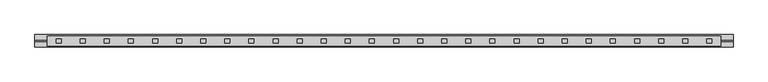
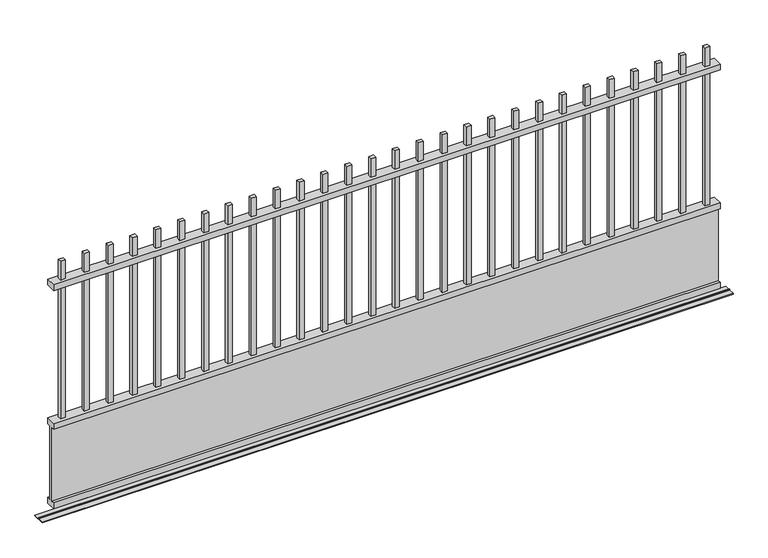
"""IFC4 building model written with IfcOpenShell, lengths in millimetres: geographic element geometry, Portail coulissant - 01 : Portail coulissant - 01."""

from ifc_helpers import new_model, si_unit, frame, origin, place, context, project, spatial, polyline, outline, extrude, faceted_brep, source, transform, mapped, element, save


def geographic_element_4788649b(model_context):
    return source(origin(), model_context, "Body", "SolidModel", [
        faceted_brep([(-1429.1068511, 7.5, 975.0), (-1429.1068511, -7.5, 975.0), (-1429.1068511, -7.5, 405.0), (-1429.1068511, 7.5, 405.0), (-1429.1068511, -7.5, 1080.0), (-1429.1068511, -7.5, 1000.0), (-1429.1068511, 7.5, 1000.0), (-1429.1068511, 7.5, 1080.0), (-1449.1068511, 7.5, 405.0), (-1449.1068511, 7.5, 975.0), (-1449.1068511, 7.5, 1000.0), (-1449.1068511, 7.5, 1080.0), (1215.8931489, 20.0, 405.0), (-1484.1068511, 20.0, 405.0), (-1484.1068511, -20.0, 405.0), (1215.8931489, -20.0, 405.0), (-1449.1068511, -7.5, 405.0), (-1235.7735177, -7.5, 405.0), (-1255.7735177, -7.5, 405.0), (-1255.7735177, 7.5, 405.0), (-1235.7735177, 7.5, 405.0), (-1042.4401844, -7.5, 405.0), (-1062.4401844, -7.5, 405.0), (-1062.4401844, 7.5, 405.0), (-1042.4401844, 7.5, 405.0), (-849.1068511, -7.5, 405.0), (-869.1068511, -7.5, 405.0), (-869.1068511, 7.5, 405.0), (-849.1068511, 7.5, 405.0), (-655.7735177, -7.5, 405.0), (-675.7735177, -7.5, 405.0), (-675.7735177, 7.5, 405.0), (-655.7735177, 7.5, 405.0), (-462.4401844, -7.5, 405.0), (-482.4401844, -7.5, 405.0), (-482.4401844, 7.5, 405.0), (-462.4401844, 7.5, 405.0), (-269.1068511, -7.5, 405.0), (-289.1068511, -7.5, 405.0), (-289.1068511, 7.5, 405.0), (-269.1068511, 7.5, 405.0), (-75.7735177, -7.5, 405.0), (-95.7735177, -7.5, 405.0), (-95.7735177, 7.5, 405.0), (-75.7735177, 7.5, 405.0), (117.5598156, -7.5, 405.0), (97.5598156, -7.5, 405.0), (97.5598156, 7.5, 405.0), (117.5598156, 7.5, 405.0), (310.8931489, -7.5, 405.0), (290.8931489, -7.5, 405.0), (290.8931489, 7.5, 405.0), (310.8931489, 7.5, 405.0), (407.5598156, -7.5, 405.0), (387.5598156, -7.5, 405.0), (387.5598156, 7.5, 405.0), (407.5598156, 7.5, 405.0), (504.2264823, -7.5, 405.0), (484.2264823, -7.5, 405.0), (484.2264823, 7.5, 405.0), (504.2264823, 7.5, 405.0), (600.8931489, -7.5, 405.0), (580.8931489, -7.5, 405.0), (580.8931489, 7.5, 405.0), (600.8931489, 7.5, 405.0), (697.5598156, -7.5, 405.0), (677.5598156, -7.5, 405.0), (677.5598156, 7.5, 405.0), (697.5598156, 7.5, 405.0), (794.2264823, -7.5, 405.0), (774.2264823, -7.5, 405.0), (774.2264823, 7.5, 405.0), (794.2264823, 7.5, 405.0), (890.8931489, -7.5, 405.0), (870.8931489, -7.5, 405.0), (870.8931489, 7.5, 405.0), (890.8931489, 7.5, 405.0), (987.5598156, -7.5, 405.0), (967.5598156, -7.5, 405.0), (967.5598156, 7.5, 405.0), (987.5598156, 7.5, 405.0), (1084.2264823, -7.5, 405.0), (1064.2264823, -7.5, 405.0), (1064.2264823, 7.5, 405.0), (1084.2264823, 7.5, 405.0), (1180.8931489, -7.5, 405.0), (1160.8931489, -7.5, 405.0), (1160.8931489, 7.5, 405.0), (1180.8931489, 7.5, 405.0), (-1332.4401844, -7.5, 405.0), (-1352.4401844, -7.5, 405.0), (-1352.4401844, 7.5, 405.0), (-1332.4401844, 7.5, 405.0), (-1139.1068511, -7.5, 405.0), (-1159.1068511, -7.5, 405.0), (-1159.1068511, 7.5, 405.0), (-1139.1068511, 7.5, 405.0), (-945.7735177, -7.5, 405.0), (-965.7735177, -7.5, 405.0), (-965.7735177, 7.5, 405.0), (-945.7735177, 7.5, 405.0), (-752.4401844, -7.5, 405.0), (-772.4401844, -7.5, 405.0), (-772.4401844, 7.5, 405.0), (-752.4401844, 7.5, 405.0), (-365.7735177, -7.5, 405.0), (-385.7735177, -7.5, 405.0), (-385.7735177, 7.5, 405.0), (-365.7735177, 7.5, 405.0), (-172.4401844, -7.5, 405.0), (-192.4401844, -7.5, 405.0), (-192.4401844, 7.5, 405.0), (-172.4401844, 7.5, 405.0), (214.2264823, -7.5, 405.0), (194.2264823, -7.5, 405.0), (194.2264823, 7.5, 405.0), (214.2264823, 7.5, 405.0), (20.8931489, -7.5, 405.0), (0.8931489, -7.5, 405.0), (0.8931489, 7.5, 405.0), (20.8931489, 7.5, 405.0), (-559.1068511, -7.5, 405.0), (-579.1068511, -7.5, 405.0), (-579.1068511, 7.5, 405.0), (-559.1068511, 7.5, 405.0), (-1449.1068511, -7.5, 975.0), (-1449.1068511, -7.5, 1080.0), (-1449.1068511, -7.5, 1000.0), (1215.8931489, -20.0, 975.0), (-1484.1068511, -20.0, 975.0), (-1484.1068511, 20.0, 975.0), (1215.8931489, 20.0, 975.0), (-1235.7735177, 7.5, 975.0), (-1255.7735177, 7.5, 975.0), (-1255.7735177, -7.5, 975.0), (-1235.7735177, -7.5, 975.0), (-1042.4401844, 7.5, 975.0), (-1062.4401844, 7.5, 975.0), (-1062.4401844, -7.5, 975.0), (-1042.4401844, -7.5, 975.0), (-849.1068511, 7.5, 975.0), (-869.1068511, 7.5, 975.0), (-869.1068511, -7.5, 975.0), (-849.1068511, -7.5, 975.0), (-655.7735177, 7.5, 975.0), (-675.7735177, 7.5, 975.0), (-675.7735177, -7.5, 975.0), (-655.7735177, -7.5, 975.0), (-462.4401844, 7.5, 975.0), (-482.4401844, 7.5, 975.0), (-482.4401844, -7.5, 975.0), (-462.4401844, -7.5, 975.0), (-269.1068511, 7.5, 975.0), (-289.1068511, 7.5, 975.0), (-289.1068511, -7.5, 975.0), (-269.1068511, -7.5, 975.0), (-75.7735177, 7.5, 975.0), (-95.7735177, 7.5, 975.0), (-95.7735177, -7.5, 975.0), (-75.7735177, -7.5, 975.0), (117.5598156, 7.5, 975.0), (97.5598156, 7.5, 975.0), (97.5598156, -7.5, 975.0), (117.5598156, -7.5, 975.0), (310.8931489, 7.5, 975.0), (290.8931489, 7.5, 975.0), (290.8931489, -7.5, 975.0), (310.8931489, -7.5, 975.0), (407.5598156, 7.5, 975.0), (387.5598156, 7.5, 975.0), (387.5598156, -7.5, 975.0), (407.5598156, -7.5, 975.0), (504.2264823, 7.5, 975.0), (484.2264823, 7.5, 975.0), (484.2264823, -7.5, 975.0), (504.2264823, -7.5, 975.0), (600.8931489, 7.5, 975.0), (580.8931489, 7.5, 975.0), (580.8931489, -7.5, 975.0), (600.8931489, -7.5, 975.0), (697.5598156, 7.5, 975.0), (677.5598156, 7.5, 975.0), (677.5598156, -7.5, 975.0), (697.5598156, -7.5, 975.0), (794.2264823, 7.5, 975.0), (774.2264823, 7.5, 975.0), (774.2264823, -7.5, 975.0), (794.2264823, -7.5, 975.0), (890.8931489, 7.5, 975.0), (870.8931489, 7.5, 975.0), (870.8931489, -7.5, 975.0), (890.8931489, -7.5, 975.0), (987.5598156, 7.5, 975.0), (967.5598156, 7.5, 975.0), (967.5598156, -7.5, 975.0), (987.5598156, -7.5, 975.0), (1084.2264823, 7.5, 975.0), (1064.2264823, 7.5, 975.0), (1064.2264823, -7.5, 975.0), (1084.2264823, -7.5, 975.0), (1180.8931489, 7.5, 975.0), (1160.8931489, 7.5, 975.0), (1160.8931489, -7.5, 975.0), (1180.8931489, -7.5, 975.0), (-1332.4401844, 7.5, 975.0), (-1352.4401844, 7.5, 975.0), (-1352.4401844, -7.5, 975.0), (-1332.4401844, -7.5, 975.0), (-1139.1068511, 7.5, 975.0), (-1159.1068511, 7.5, 975.0), (-1159.1068511, -7.5, 975.0), (-1139.1068511, -7.5, 975.0), (-945.7735177, 7.5, 975.0), (-965.7735177, 7.5, 975.0), (-965.7735177, -7.5, 975.0), (-945.7735177, -7.5, 975.0), (-752.4401844, 7.5, 975.0), (-772.4401844, 7.5, 975.0), (-772.4401844, -7.5, 975.0), (-752.4401844, -7.5, 975.0), (-365.7735177, 7.5, 975.0), (-385.7735177, 7.5, 975.0), (-385.7735177, -7.5, 975.0), (-365.7735177, -7.5, 975.0), (-172.4401844, 7.5, 975.0), (-192.4401844, 7.5, 975.0), (-192.4401844, -7.5, 975.0), (-172.4401844, -7.5, 975.0), (214.2264823, 7.5, 975.0), (194.2264823, 7.5, 975.0), (194.2264823, -7.5, 975.0), (214.2264823, -7.5, 975.0), (20.8931489, 7.5, 975.0), (0.8931489, 7.5, 975.0), (0.8931489, -7.5, 975.0), (20.8931489, -7.5, 975.0), (-559.1068511, 7.5, 975.0), (-579.1068511, 7.5, 975.0), (-579.1068511, -7.5, 975.0), (-559.1068511, -7.5, 975.0), (-1235.7735177, -7.5, 1080.0), (-1235.7735177, -7.5, 1000.0), (-1235.7735177, 7.5, 1000.0), (-1235.7735177, 7.5, 1080.0), (-1255.7735177, 7.5, 1000.0), (-1255.7735177, 7.5, 1080.0), (-1255.7735177, -7.5, 1080.0), (-1255.7735177, -7.5, 1000.0), (-1042.4401844, -7.5, 1080.0), (-1042.4401844, -7.5, 1000.0), (-1042.4401844, 7.5, 1000.0), (-1042.4401844, 7.5, 1080.0), (-1062.4401844, 7.5, 1000.0), (-1062.4401844, 7.5, 1080.0), (-1062.4401844, -7.5, 1080.0), (-1062.4401844, -7.5, 1000.0), (-849.1068511, -7.5, 1080.0), (-849.1068511, -7.5, 1000.0), (-849.1068511, 7.5, 1000.0), (-849.1068511, 7.5, 1080.0), (-869.1068511, 7.5, 1000.0), (-869.1068511, 7.5, 1080.0), (-869.1068511, -7.5, 1080.0), (-869.1068511, -7.5, 1000.0), (-655.7735177, -7.5, 1080.0), (-655.7735177, -7.5, 1000.0), (-655.7735177, 7.5, 1000.0), (-655.7735177, 7.5, 1080.0), (-675.7735177, 7.5, 1000.0), (-675.7735177, 7.5, 1080.0), (-675.7735177, -7.5, 1080.0), (-675.7735177, -7.5, 1000.0), (-462.4401844, -7.5, 1080.0), (-462.4401844, -7.5, 1000.0), (-462.4401844, 7.5, 1000.0), (-462.4401844, 7.5, 1080.0), (-482.4401844, 7.5, 1000.0), (-482.4401844, 7.5, 1080.0), (-482.4401844, -7.5, 1080.0), (-482.4401844, -7.5, 1000.0), (-269.1068511, -7.5, 1080.0), (-269.1068511, -7.5, 1000.0), (-269.1068511, 7.5, 1000.0), (-269.1068511, 7.5, 1080.0), (-289.1068511, 7.5, 1000.0), (-289.1068511, 7.5, 1080.0), (-289.1068511, -7.5, 1080.0), (-289.1068511, -7.5, 1000.0), (-75.7735177, -7.5, 1080.0), (-75.7735177, -7.5, 1000.0), (-75.7735177, 7.5, 1000.0), (-75.7735177, 7.5, 1080.0), (-95.7735177, 7.5, 1000.0), (-95.7735177, 7.5, 1080.0), (-95.7735177, -7.5, 1080.0), (-95.7735177, -7.5, 1000.0), (117.5598156, -7.5, 1080.0), (117.5598156, -7.5, 1000.0), (117.5598156, 7.5, 1000.0), (117.5598156, 7.5, 1080.0), (97.5598156, 7.5, 1000.0), (97.5598156, 7.5, 1080.0), (97.5598156, -7.5, 1080.0), (97.5598156, -7.5, 1000.0), (310.8931489, -7.5, 1080.0), (310.8931489, -7.5, 1000.0), (310.8931489, 7.5, 1000.0), (310.8931489, 7.5, 1080.0), (290.8931489, 7.5, 1000.0), (290.8931489, 7.5, 1080.0), (290.8931489, -7.5, 1080.0), (290.8931489, -7.5, 1000.0), (407.5598156, -7.5, 1080.0), (407.5598156, -7.5, 1000.0), (407.5598156, 7.5, 1000.0), (407.5598156, 7.5, 1080.0), (387.5598156, 7.5, 1000.0), (387.5598156, 7.5, 1080.0), (387.5598156, -7.5, 1080.0), (387.5598156, -7.5, 1000.0), (504.2264823, -7.5, 1080.0), (504.2264823, -7.5, 1000.0), (504.2264823, 7.5, 1000.0), (504.2264823, 7.5, 1080.0), (484.2264823, 7.5, 1000.0), (484.2264823, 7.5, 1080.0), (484.2264823, -7.5, 1080.0), (484.2264823, -7.5, 1000.0), (600.8931489, -7.5, 1080.0), (600.8931489, -7.5, 1000.0), (600.8931489, 7.5, 1000.0), (600.8931489, 7.5, 1080.0), (580.8931489, 7.5, 1000.0), (580.8931489, 7.5, 1080.0), (580.8931489, -7.5, 1080.0), (580.8931489, -7.5, 1000.0), (697.5598156, -7.5, 1080.0), (697.5598156, -7.5, 1000.0), (697.5598156, 7.5, 1000.0), (697.5598156, 7.5, 1080.0), (677.5598156, 7.5, 1000.0), (677.5598156, 7.5, 1080.0), (677.5598156, -7.5, 1080.0), (677.5598156, -7.5, 1000.0), (794.2264823, -7.5, 1080.0), (794.2264823, -7.5, 1000.0), (794.2264823, 7.5, 1000.0), (794.2264823, 7.5, 1080.0), (774.2264823, 7.5, 1000.0), (774.2264823, 7.5, 1080.0), (774.2264823, -7.5, 1080.0), (774.2264823, -7.5, 1000.0), (890.8931489, -7.5, 1080.0), (890.8931489, -7.5, 1000.0), (890.8931489, 7.5, 1000.0), (890.8931489, 7.5, 1080.0), (870.8931489, 7.5, 1000.0), (870.8931489, 7.5, 1080.0), (870.8931489, -7.5, 1080.0), (870.8931489, -7.5, 1000.0), (987.5598156, -7.5, 1080.0), (987.5598156, -7.5, 1000.0), (987.5598156, 7.5, 1000.0), (987.5598156, 7.5, 1080.0), (967.5598156, 7.5, 1000.0), (967.5598156, 7.5, 1080.0), (967.5598156, -7.5, 1080.0), (967.5598156, -7.5, 1000.0), (1084.2264823, -7.5, 1080.0), (1084.2264823, -7.5, 1000.0), (1084.2264823, 7.5, 1000.0), (1084.2264823, 7.5, 1080.0), (1064.2264823, 7.5, 1000.0), (1064.2264823, 7.5, 1080.0), (1064.2264823, -7.5, 1080.0), (1064.2264823, -7.5, 1000.0), (1180.8931489, -7.5, 1080.0), (1180.8931489, -7.5, 1000.0), (1180.8931489, 7.5, 1000.0), (1180.8931489, 7.5, 1080.0), (1160.8931489, 7.5, 1000.0), (1160.8931489, 7.5, 1080.0), (1160.8931489, -7.5, 1080.0), (1160.8931489, -7.5, 1000.0), (-1332.4401844, -7.5, 1080.0), (-1332.4401844, -7.5, 1000.0), (-1332.4401844, 7.5, 1000.0), (-1332.4401844, 7.5, 1080.0), (-1352.4401844, 7.5, 1000.0), (-1352.4401844, 7.5, 1080.0), (-1352.4401844, -7.5, 1080.0), (-1352.4401844, -7.5, 1000.0), (-1139.1068511, -7.5, 1080.0), (-1139.1068511, -7.5, 1000.0), (-1139.1068511, 7.5, 1000.0), (-1139.1068511, 7.5, 1080.0), (-1159.1068511, 7.5, 1000.0), (-1159.1068511, 7.5, 1080.0), (-1159.1068511, -7.5, 1080.0), (-1159.1068511, -7.5, 1000.0), (-945.7735177, -7.5, 1080.0), (-945.7735177, -7.5, 1000.0), (-945.7735177, 7.5, 1000.0), (-945.7735177, 7.5, 1080.0), (-965.7735177, 7.5, 1000.0), (-965.7735177, 7.5, 1080.0), (-965.7735177, -7.5, 1080.0), (-965.7735177, -7.5, 1000.0), (-752.4401844, -7.5, 1080.0), (-752.4401844, -7.5, 1000.0), (-752.4401844, 7.5, 1000.0), (-752.4401844, 7.5, 1080.0), (-772.4401844, 7.5, 1000.0), (-772.4401844, 7.5, 1080.0), (-772.4401844, -7.5, 1080.0), (-772.4401844, -7.5, 1000.0), (-365.7735177, -7.5, 1080.0), (-365.7735177, -7.5, 1000.0), (-365.7735177, 7.5, 1000.0), (-365.7735177, 7.5, 1080.0), (-385.7735177, 7.5, 1000.0), (-385.7735177, 7.5, 1080.0), (-385.7735177, -7.5, 1080.0), (-385.7735177, -7.5, 1000.0), (-172.4401844, -7.5, 1080.0), (-172.4401844, -7.5, 1000.0), (-172.4401844, 7.5, 1000.0), (-172.4401844, 7.5, 1080.0), (-192.4401844, 7.5, 1000.0), (-192.4401844, 7.5, 1080.0), (-192.4401844, -7.5, 1080.0), (-192.4401844, -7.5, 1000.0), (214.2264823, -7.5, 1080.0), (214.2264823, -7.5, 1000.0), (214.2264823, 7.5, 1000.0), (214.2264823, 7.5, 1080.0), (194.2264823, 7.5, 1000.0), (194.2264823, 7.5, 1080.0), (194.2264823, -7.5, 1080.0), (194.2264823, -7.5, 1000.0), (20.8931489, -7.5, 1080.0), (20.8931489, -7.5, 1000.0), (20.8931489, 7.5, 1000.0), (20.8931489, 7.5, 1080.0), (0.8931489, 7.5, 1000.0), (0.8931489, 7.5, 1080.0), (0.8931489, -7.5, 1080.0), (0.8931489, -7.5, 1000.0), (-559.1068511, -7.5, 1080.0), (-559.1068511, -7.5, 1000.0), (-559.1068511, 7.5, 1000.0), (-559.1068511, 7.5, 1080.0), (-579.1068511, 7.5, 1000.0), (-579.1068511, 7.5, 1080.0), (-579.1068511, -7.5, 1080.0), (-579.1068511, -7.5, 1000.0), (1215.8931489, 20.0, 1000.0), (1215.8931489, -20.0, 1000.0), (1215.8931489, 20.0, 380.0), (1215.8931489, -20.0, 380.0), (1215.8931489, -7.5, 380.0), (1215.8931489, -7.5, 65.0), (1215.8931489, -20.0, 65.0), (1215.8931489, -20.0, 40.0), (1215.8931489, 20.0, 40.0), (1215.8931489, 20.0, 65.0), (1215.8931489, 7.5, 65.0), (1215.8931489, 7.5, 380.0), (-1484.1068511, 7.5, 380.0), (-1484.1068511, 20.0, 380.0), (-1484.1068511, 7.5, 65.0), (-1484.1068511, 20.0, 65.0), (-1484.1068511, 20.0, 40.0), (-1484.1068511, -20.0, 40.0), (-1484.1068511, -20.0, 65.0), (-1484.1068511, -7.5, 65.0), (-1484.1068511, -7.5, 380.0), (-1484.1068511, -20.0, 380.0), (-1484.1068511, -20.0, 1000.0), (-1484.1068511, 20.0, 1000.0)], [[[0, 1, 2, 3]], [[4, 5, 6, 7]], [[3, 8, 9, 0]], [[7, 6, 10, 11]], [[12, 13, 14, 15], [2, 16, 8, 3], [17, 18, 19, 20], [21, 22, 23, 24], [25, 26, 27, 28], [29, 30, 31, 32], [33, 34, 35, 36], [37, 38, 39, 40], [41, 42, 43, 44], [45, 46, 47, 48], [49, 50, 51, 52], [53, 54, 55, 56], [57, 58, 59, 60], [61, 62, 63, 64], [65, 66, 67, 68], [69, 70, 71, 72], [73, 74, 75, 76], [77, 78, 79, 80], [81, 82, 83, 84], [85, 86, 87, 88], [89, 90, 91, 92], [93, 94, 95, 96], [97, 98, 99, 100], [101, 102, 103, 104], [105, 106, 107, 108], [109, 110, 111, 112], [113, 114, 115, 116], [117, 118, 119, 120], [121, 122, 123, 124]], [[1, 125, 16, 2]], [[126, 127, 5, 4]], [[128, 129, 130, 131], [0, 9, 125, 1], [132, 133, 134, 135], [136, 137, 138, 139], [140, 141, 142, 143], [144, 145, 146, 147], [148, 149, 150, 151], [152, 153, 154, 155], [156, 157, 158, 159], [160, 161, 162, 163], [164, 165, 166, 167], [168, 169, 170, 171], [172, 173, 174, 175], [176, 177, 178, 179], [180, 181, 182, 183], [184, 185, 186, 187], [188, 189, 190, 191], [192, 193, 194, 195], [196, 197, 198, 199], [200, 201, 202, 203], [204, 205, 206, 207], [208, 209, 210, 211], [212, 213, 214, 215], [216, 217, 218, 219], [220, 221, 222, 223], [224, 225, 226, 227], [228, 229, 230, 231], [232, 233, 234, 235], [236, 237, 238, 239]], [[125, 9, 8, 16]], [[11, 10, 127, 126]], [[132, 135, 17, 20]], [[240, 241, 242, 243]], [[20, 19, 133, 132]], [[243, 242, 244, 245]], [[135, 134, 18, 17]], [[246, 247, 241, 240]], [[134, 133, 19, 18]], [[245, 244, 247, 246]], [[136, 139, 21, 24]], [[248, 249, 250, 251]], [[24, 23, 137, 136]], [[251, 250, 252, 253]], [[139, 138, 22, 21]], [[254, 255, 249, 248]], [[138, 137, 23, 22]], [[253, 252, 255, 254]], [[140, 143, 25, 28]], [[256, 257, 258, 259]], [[28, 27, 141, 140]], [[259, 258, 260, 261]], [[143, 142, 26, 25]], [[262, 263, 257, 256]], [[142, 141, 27, 26]], [[261, 260, 263, 262]], [[144, 147, 29, 32]], [[264, 265, 266, 267]], [[32, 31, 145, 144]], [[267, 266, 268, 269]], [[147, 146, 30, 29]], [[270, 271, 265, 264]], [[146, 145, 31, 30]], [[269, 268, 271, 270]], [[148, 151, 33, 36]], [[272, 273, 274, 275]], [[36, 35, 149, 148]], [[275, 274, 276, 277]], [[151, 150, 34, 33]], [[278, 279, 273, 272]], [[150, 149, 35, 34]], [[277, 276, 279, 278]], [[152, 155, 37, 40]], [[280, 281, 282, 283]], [[40, 39, 153, 152]], [[283, 282, 284, 285]], [[155, 154, 38, 37]], [[286, 287, 281, 280]], [[154, 153, 39, 38]], [[285, 284, 287, 286]], [[156, 159, 41, 44]], [[288, 289, 290, 291]], [[44, 43, 157, 156]], [[291, 290, 292, 293]], [[159, 158, 42, 41]], [[294, 295, 289, 288]], [[158, 157, 43, 42]], [[293, 292, 295, 294]], [[160, 163, 45, 48]], [[296, 297, 298, 299]], [[48, 47, 161, 160]], [[299, 298, 300, 301]], [[163, 162, 46, 45]], [[302, 303, 297, 296]], [[162, 161, 47, 46]], [[301, 300, 303, 302]], [[164, 167, 49, 52]], [[304, 305, 306, 307]], [[52, 51, 165, 164]], [[307, 306, 308, 309]], [[167, 166, 50, 49]], [[310, 311, 305, 304]], [[166, 165, 51, 50]], [[309, 308, 311, 310]], [[168, 171, 53, 56]], [[312, 313, 314, 315]], [[56, 55, 169, 168]], [[315, 314, 316, 317]], [[171, 170, 54, 53]], [[318, 319, 313, 312]], [[170, 169, 55, 54]], [[317, 316, 319, 318]], [[172, 175, 57, 60]], [[320, 321, 322, 323]], [[60, 59, 173, 172]], [[323, 322, 324, 325]], [[175, 174, 58, 57]], [[326, 327, 321, 320]], [[174, 173, 59, 58]], [[325, 324, 327, 326]], [[176, 179, 61, 64]], [[328, 329, 330, 331]], [[64, 63, 177, 176]], [[331, 330, 332, 333]], [[179, 178, 62, 61]], [[334, 335, 329, 328]], [[178, 177, 63, 62]], [[333, 332, 335, 334]], [[180, 183, 65, 68]], [[336, 337, 338, 339]], [[68, 67, 181, 180]], [[339, 338, 340, 341]], [[183, 182, 66, 65]], [[342, 343, 337, 336]], [[182, 181, 67, 66]], [[341, 340, 343, 342]], [[184, 187, 69, 72]], [[344, 345, 346, 347]], [[72, 71, 185, 184]], [[347, 346, 348, 349]], [[187, 186, 70, 69]], [[350, 351, 345, 344]], [[186, 185, 71, 70]], [[349, 348, 351, 350]], [[188, 191, 73, 76]], [[352, 353, 354, 355]], [[76, 75, 189, 188]], [[355, 354, 356, 357]], [[191, 190, 74, 73]], [[358, 359, 353, 352]], [[190, 189, 75, 74]], [[357, 356, 359, 358]], [[192, 195, 77, 80]], [[360, 361, 362, 363]], [[80, 79, 193, 192]], [[363, 362, 364, 365]], [[195, 194, 78, 77]], [[366, 367, 361, 360]], [[194, 193, 79, 78]], [[365, 364, 367, 366]], [[196, 199, 81, 84]], [[368, 369, 370, 371]], [[84, 83, 197, 196]], [[371, 370, 372, 373]], [[199, 198, 82, 81]], [[374, 375, 369, 368]], [[198, 197, 83, 82]], [[373, 372, 375, 374]], [[200, 203, 85, 88]], [[376, 377, 378, 379]], [[88, 87, 201, 200]], [[379, 378, 380, 381]], [[203, 202, 86, 85]], [[382, 383, 377, 376]], [[202, 201, 87, 86]], [[381, 380, 383, 382]], [[204, 207, 89, 92]], [[384, 385, 386, 387]], [[92, 91, 205, 204]], [[387, 386, 388, 389]], [[207, 206, 90, 89]], [[390, 391, 385, 384]], [[206, 205, 91, 90]], [[389, 388, 391, 390]], [[208, 211, 93, 96]], [[392, 393, 394, 395]], [[96, 95, 209, 208]], [[395, 394, 396, 397]], [[211, 210, 94, 93]], [[398, 399, 393, 392]], [[210, 209, 95, 94]], [[397, 396, 399, 398]], [[212, 215, 97, 100]], [[400, 401, 402, 403]], [[100, 99, 213, 212]], [[403, 402, 404, 405]], [[215, 214, 98, 97]], [[406, 407, 401, 400]], [[214, 213, 99, 98]], [[405, 404, 407, 406]], [[216, 219, 101, 104]], [[408, 409, 410, 411]], [[104, 103, 217, 216]], [[411, 410, 412, 413]], [[219, 218, 102, 101]], [[414, 415, 409, 408]], [[218, 217, 103, 102]], [[413, 412, 415, 414]], [[220, 223, 105, 108]], [[416, 417, 418, 419]], [[108, 107, 221, 220]], [[419, 418, 420, 421]], [[223, 222, 106, 105]], [[422, 423, 417, 416]], [[222, 221, 107, 106]], [[421, 420, 423, 422]], [[224, 227, 109, 112]], [[424, 425, 426, 427]], [[112, 111, 225, 224]], [[427, 426, 428, 429]], [[227, 226, 110, 109]], [[430, 431, 425, 424]], [[226, 225, 111, 110]], [[429, 428, 431, 430]], [[228, 231, 113, 116]], [[432, 433, 434, 435]], [[116, 115, 229, 228]], [[435, 434, 436, 437]], [[231, 230, 114, 113]], [[438, 439, 433, 432]], [[230, 229, 115, 114]], [[437, 436, 439, 438]], [[232, 235, 117, 120]], [[440, 441, 442, 443]], [[120, 119, 233, 232]], [[443, 442, 444, 445]], [[235, 234, 118, 117]], [[446, 447, 441, 440]], [[234, 233, 119, 118]], [[445, 444, 447, 446]], [[236, 239, 121, 124]], [[448, 449, 450, 451]], [[124, 123, 237, 236]], [[451, 450, 452, 453]], [[239, 238, 122, 121]], [[454, 455, 449, 448]], [[238, 237, 123, 122]], [[453, 452, 455, 454]], [[128, 131, 456, 457]], [[458, 12, 15, 459, 460, 461, 462, 463, 464, 465, 466, 467]], [[467, 468, 469, 458]], [[466, 470, 468, 467]], [[465, 471, 470, 466]], [[464, 472, 471, 465]], [[463, 473, 472, 464]], [[462, 474, 473, 463]], [[461, 475, 474, 462]], [[460, 476, 475, 461]], [[459, 477, 476, 460]], [[15, 14, 477, 459]], [[458, 469, 13, 12]], [[457, 478, 129, 128]], [[131, 130, 479, 456]], [[469, 468, 470, 471, 472, 473, 474, 475, 476, 477, 14, 13]], [[129, 478, 479, 130]], [[7, 11, 126, 4]], [[243, 245, 246, 240]], [[251, 253, 254, 248]], [[259, 261, 262, 256]], [[267, 269, 270, 264]], [[275, 277, 278, 272]], [[283, 285, 286, 280]], [[291, 293, 294, 288]], [[299, 301, 302, 296]], [[307, 309, 310, 304]], [[315, 317, 318, 312]], [[323, 325, 326, 320]], [[331, 333, 334, 328]], [[339, 341, 342, 336]], [[347, 349, 350, 344]], [[355, 357, 358, 352]], [[363, 365, 366, 360]], [[371, 373, 374, 368]], [[379, 381, 382, 376]], [[387, 389, 390, 384]], [[395, 397, 398, 392]], [[403, 405, 406, 400]], [[411, 413, 414, 408]], [[419, 421, 422, 416]], [[427, 429, 430, 424]], [[435, 437, 438, 432]], [[443, 445, 446, 440]], [[451, 453, 454, 448]], [[456, 479, 478, 457], [5, 127, 10, 6], [241, 247, 244, 242], [249, 255, 252, 250], [257, 263, 260, 258], [265, 271, 268, 266], [273, 279, 276, 274], [281, 287, 284, 282], [289, 295, 292, 290], [297, 303, 300, 298], [305, 311, 308, 306], [313, 319, 316, 314], [321, 327, 324, 322], [329, 335, 332, 330], [337, 343, 340, 338], [345, 351, 348, 346], [353, 359, 356, 354], [361, 367, 364, 362], [369, 375, 372, 370], [377, 383, 380, 378], [385, 391, 388, 386], [393, 399, 396, 394], [401, 407, 404, 402], [409, 415, 412, 410], [417, 423, 420, 418], [425, 431, 428, 426], [433, 439, 436, 434], [441, 447, 444, 442], [449, 455, 452, 450]]]),
        extrude(outline(polyline([(25.0, 0.0), (-25.0, 0.0), (-25.0, 3.0), (-1.4239432, 3.0), (-1.4239432, 6.0), (1.4239432, 6.0), (1.4239432, 3.0), (25.0, 3.0), (25.0, 0.0)])), frame((-1534.1068511, 0.0, 0.0), z_axis=(1.0, 0.0, 0.0), x_axis=(0.0, 1.0, 0.0)), (0.0, 0.0, 1.0), 2800.0),
    ])


if __name__ == "__main__":
    model = new_model("IFC4")
    model_context = context("Model", 3, world=origin())
    ifc_project = project(units=[si_unit("LENGTHUNIT", "METRE", prefix="MILLI")], contexts=[model_context])
    site = spatial("IfcSite", under=ifc_project)
    building = spatial("IfcBuilding", under=site)
    placement = place(None, origin())
    geographic_element_shape = geographic_element_4788649b(model_context)
    element("IfcGeographicElement", 1, ObjectType="Portail coulissant - 01 : Portail coulissant - 01", at=placement, inside=building, context=model_context, shape_type="MappedRepresentation", body=[
        mapped(geographic_element_shape, transform((0.0, 0.0, 0.0), x_axis=(1.0, 0.0, 0.0), y_axis=(0.0, 1.0, 0.0), z_axis=(0.0, 0.0, 1.0))),
    ])
    save(model, "model.ifc")
